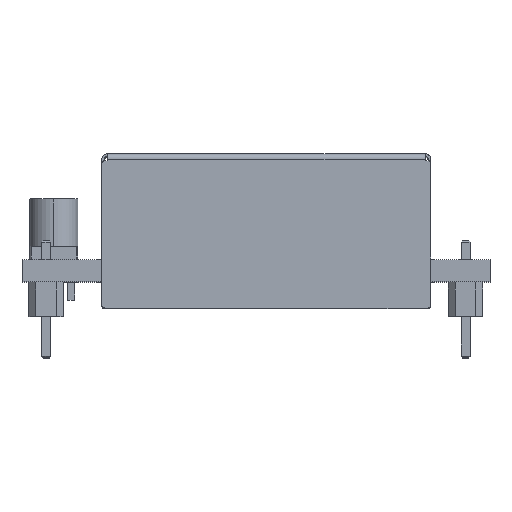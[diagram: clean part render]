
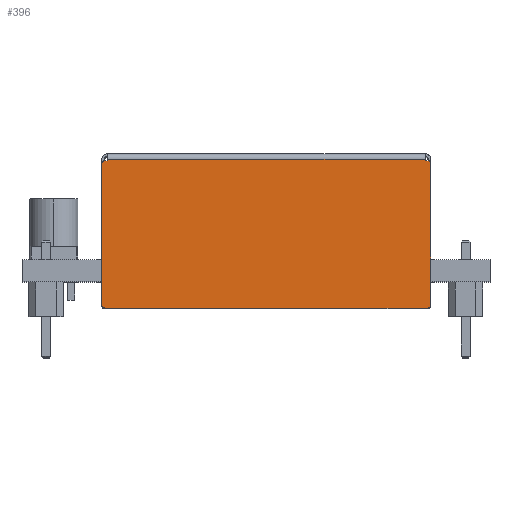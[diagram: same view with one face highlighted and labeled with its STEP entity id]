
A CAD part, top view. The second image highlights one B-rep face of the part: STEP entity #396.
In plain terms, the highlighted planar face has unit normal (0, 0, 1).
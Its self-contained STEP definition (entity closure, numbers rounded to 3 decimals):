
#396=ADVANCED_FACE('',(#2303),#2302,.T.);
#2302=PLANE('',#7805);
#2303=FACE_OUTER_BOUND('',#7806,.T.);
#7802=CARTESIAN_POINT('',(-65.14,9.98,43.106));
#7803=DIRECTION('',(0.,0.,1.));
#7804=DIRECTION('',(0.,-1.,0.));
#7805=AXIS2_PLACEMENT_3D('',#7802,#7803,#7804);
#7806=EDGE_LOOP('',(#10928,#10929,#10930,#10931,#10932,#10933,#10934,#10935,#10936,#10937,#10938,#10939));
#10928=ORIENTED_EDGE('',*,*,#13612,.F.);
#10929=ORIENTED_EDGE('',*,*,#13613,.T.);
#10930=ORIENTED_EDGE('',*,*,#13614,.T.);
#10931=ORIENTED_EDGE('',*,*,#13615,.T.);
#10932=ORIENTED_EDGE('',*,*,#13616,.T.);
#10933=ORIENTED_EDGE('',*,*,#13617,.T.);
#10934=ORIENTED_EDGE('',*,*,#13618,.F.);
#10935=ORIENTED_EDGE('',*,*,#13619,.T.);
#10936=ORIENTED_EDGE('',*,*,#13620,.T.);
#10937=ORIENTED_EDGE('',*,*,#13621,.F.);
#10938=ORIENTED_EDGE('',*,*,#13622,.F.);
#10939=ORIENTED_EDGE('',*,*,#13623,.T.);
#13612=EDGE_CURVE('',#17362,#17363,#17364,.T.);
#13613=EDGE_CURVE('',#17362,#17370,#17371,.T.);
#13614=EDGE_CURVE('',#17370,#17377,#17378,.T.);
#13615=EDGE_CURVE('',#17377,#17384,#17385,.T.);
#13616=EDGE_CURVE('',#17384,#17391,#17392,.T.);
#13617=EDGE_CURVE('',#17391,#17398,#17399,.T.);
#13618=EDGE_CURVE('',#17405,#17398,#17406,.T.);
#13619=EDGE_CURVE('',#17405,#17412,#17413,.T.);
#13620=EDGE_CURVE('',#17412,#17419,#17420,.T.);
#13621=EDGE_CURVE('',#17426,#17419,#17427,.T.);
#13622=EDGE_CURVE('',#17433,#17426,#17434,.T.);
#13623=EDGE_CURVE('',#17433,#17363,#17440,.T.);
#17362=VERTEX_POINT('',#26352);
#17363=VERTEX_POINT('',#26353);
#17364=LINE('',#26354,#26355);
#17370=VERTEX_POINT('',#26357);
#17371=CIRCLE('',#26361,0.2);
#17377=VERTEX_POINT('',#26362);
#17378=LINE('',#26363,#26364);
#17384=VERTEX_POINT('',#26366);
#17385=CIRCLE('',#26370,0.2);
#17391=VERTEX_POINT('',#26371);
#17392=LINE('',#26372,#26373);
#17398=VERTEX_POINT('',#26375);
#17399=CIRCLE('',#26379,0.2);
#17405=VERTEX_POINT('',#26380);
#17406=LINE('',#26381,#26382);
#17412=VERTEX_POINT('',#26384);
#17413=LINE('',#26385,#26386);
#17419=VERTEX_POINT('',#26388);
#17420=LINE('',#26389,#26390);
#17426=VERTEX_POINT('',#26392);
#17427=LINE('',#26393,#26394);
#17433=VERTEX_POINT('',#26396);
#17434=LINE('',#26397,#26398);
#17440=CIRCLE('',#26403,0.2);
#26352=CARTESIAN_POINT('',(-62.75,-1.7,43.106));
#26353=CARTESIAN_POINT('',(-62.75,8.6,43.106));
#26354=CARTESIAN_POINT('',(-62.75,-1.7,43.106));
#26355=VECTOR('',#26356,10.3);
#26356=DIRECTION('',(0.,1.,0.));
#26357=CARTESIAN_POINT('',(-62.55,-1.9,43.106));
#26358=CARTESIAN_POINT('',(-62.55,-1.7,43.106));
#26359=DIRECTION('',(0.,0.,1.));
#26360=DIRECTION('',(-1.,0.,0.));
#26361=AXIS2_PLACEMENT_3D('',#26358,#26359,#26360);
#26362=CARTESIAN_POINT('',(-39.05,-1.9,43.106));
#26363=CARTESIAN_POINT('',(-62.55,-1.9,43.106));
#26364=VECTOR('',#26365,23.5);
#26365=DIRECTION('',(1.,0.,0.));
#26366=CARTESIAN_POINT('',(-38.85,-1.7,43.106));
#26367=CARTESIAN_POINT('',(-39.05,-1.7,43.106));
#26368=DIRECTION('',(0.,0.,1.));
#26369=DIRECTION('',(-1.,0.,0.));
#26370=AXIS2_PLACEMENT_3D('',#26367,#26368,#26369);
#26371=CARTESIAN_POINT('',(-38.85,8.6,43.106));
#26372=CARTESIAN_POINT('',(-38.85,-1.7,43.106));
#26373=VECTOR('',#26374,10.3);
#26374=DIRECTION('',(0.,1.,0.));
#26375=CARTESIAN_POINT('',(-39.05,8.8,43.106));
#26376=CARTESIAN_POINT('',(-39.05,8.6,43.106));
#26377=DIRECTION('',(0.,0.,1.));
#26378=DIRECTION('',(-1.,0.,0.));
#26379=AXIS2_PLACEMENT_3D('',#26376,#26377,#26378);
#26380=CARTESIAN_POINT('',(-39.25,8.8,43.106));
#26381=CARTESIAN_POINT('',(-39.25,8.8,43.106));
#26382=VECTOR('',#26383,0.2);
#26383=DIRECTION('',(1.,0.,0.));
#26384=CARTESIAN_POINT('',(-39.25,8.9,43.106));
#26385=CARTESIAN_POINT('',(-39.25,8.8,43.106));
#26386=VECTOR('',#26387,0.1);
#26387=DIRECTION('',(0.,1.,0.));
#26388=CARTESIAN_POINT('',(-62.35,8.9,43.106));
#26389=CARTESIAN_POINT('',(-39.25,8.9,43.106));
#26390=VECTOR('',#26391,23.1);
#26391=DIRECTION('',(-1.,0.,0.));
#26392=CARTESIAN_POINT('',(-62.35,8.8,43.106));
#26393=CARTESIAN_POINT('',(-62.35,8.8,43.106));
#26394=VECTOR('',#26395,0.1);
#26395=DIRECTION('',(0.,1.,0.));
#26396=CARTESIAN_POINT('',(-62.55,8.8,43.106));
#26397=CARTESIAN_POINT('',(-62.55,8.8,43.106));
#26398=VECTOR('',#26399,0.2);
#26399=DIRECTION('',(1.,0.,0.));
#26400=CARTESIAN_POINT('',(-62.55,8.6,43.106));
#26401=DIRECTION('',(0.,0.,1.));
#26402=DIRECTION('',(-1.,0.,0.));
#26403=AXIS2_PLACEMENT_3D('',#26400,#26401,#26402);
